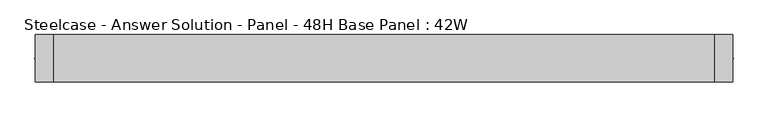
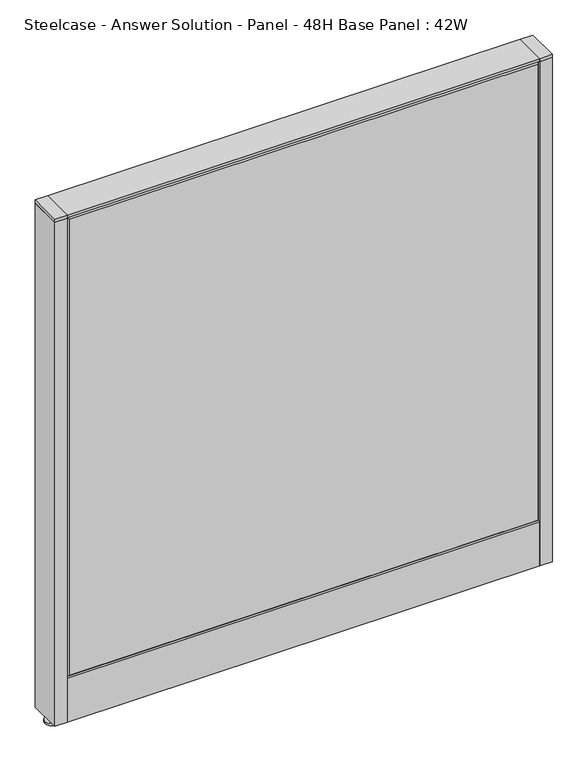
"""IFC4 building model written with IfcOpenShell, lengths in millimetres: furniture geometry, Steelcase - Answer Solution - Panel - 48H Base Panel : 42W."""

from ifc_helpers import new_model, si_unit, point, frame, frame_2d, origin, place, context, project, spatial, polyline, circle_curve, trimmed, segment, composite_curve, outline, extrude, faceted_brep, source, transform, mapped, element, save


def steelcase_answer_solution_panel_48h_base_panel_42w_ecbe02c0(model_context):
    return source(origin(), model_context, "Body", "SolidModel", [
        extrude(outline(composite_curve([segment(trimmed(circle_curve(frame_2d((547.624, 0.0320214)), 5.08), [point((552.704, 0.0320214))], [point((542.544, 0.0320214))], False, "CARTESIAN"), True, "CONTINUOUS"), segment(trimmed(circle_curve(frame_2d((547.624, 0.0320214)), 5.08), [point((542.544, 0.0320214))], [point((552.704, 0.0320214))], False, "CARTESIAN"), True, "CONTINUOUS")], self_intersect=False)), frame((0.0, 0.0, 5.0799671), z_axis=(0.0, 0.0, 1.0), x_axis=(1.0, 0.0, 0.0)), (0.0, 0.0, 1.0), 10.414),
        extrude(outline(composite_curve([segment(trimmed(circle_curve(frame_2d((547.624, 0.0320214)), 15.24), [point((562.864, 0.0320214))], [point((532.384, 0.0320214))], False, "CARTESIAN"), True, "CONTINUOUS"), segment(trimmed(circle_curve(frame_2d((547.624, 0.0320214)), 15.24), [point((532.384, 0.0320214))], [point((562.864, 0.0320214))], False, "CARTESIAN"), True, "CONTINUOUS")], self_intersect=False)), frame((0.0, 0.0, -3.29e-05), z_axis=(0.0, 0.0, 1.0), x_axis=(1.0, 0.0, 0.0)), (0.0, 0.0, 1.0), 5.08),
        extrude(outline(polyline([(561.975, 38.1320408), (561.975, -38.0679592), (533.4, -38.0679592), (533.4, 38.1320408), (561.975, 38.1320408)])), frame((0.0, 0.0, 1218.2348), z_axis=(0.0, 0.0, 1.0), x_axis=(1.0, 0.0, 0.0)), (0.0, 0.0, 1.0), 7.3151671),
        extrude(outline(polyline([(561.975, 38.1320408), (561.975, -38.0679592), (533.4, -38.0679592), (533.4, 38.1320408), (561.975, 38.1320408)])), frame((0.0, 0.0, 15.4939671), z_axis=(0.0, 0.0, 1.0), x_axis=(1.0, 0.0, 0.0)), (0.0, 0.0, 1.0), 1202.7408329),
        extrude(outline(composite_curve([segment(trimmed(circle_curve(frame_2d((-547.624, 0.0320214)), 5.08), [point((-552.704, 0.0320214))], [point((-542.544, 0.0320214))], False, "CARTESIAN"), True, "CONTINUOUS"), segment(trimmed(circle_curve(frame_2d((-547.624, 0.0320214)), 5.08), [point((-542.544, 0.0320214))], [point((-552.704, 0.0320214))], False, "CARTESIAN"), True, "CONTINUOUS")], self_intersect=False)), frame((0.0, 0.0, 5.0799671), z_axis=(0.0, 0.0, 1.0), x_axis=(1.0, 0.0, 0.0)), (0.0, 0.0, 1.0), 10.414),
        extrude(outline(composite_curve([segment(trimmed(circle_curve(frame_2d((-547.624, 0.0320214)), 15.24), [point((-562.864, 0.0320214))], [point((-532.384, 0.0320214))], False, "CARTESIAN"), True, "CONTINUOUS"), segment(trimmed(circle_curve(frame_2d((-547.624, 0.0320214)), 15.24), [point((-532.384, 0.0320214))], [point((-562.864, 0.0320214))], False, "CARTESIAN"), True, "CONTINUOUS")], self_intersect=False)), frame((0.0, 0.0, -3.29e-05), z_axis=(0.0, 0.0, 1.0), x_axis=(1.0, 0.0, 0.0)), (0.0, 0.0, 1.0), 5.08),
        extrude(outline(polyline([(-561.975, 38.1320408), (-533.4, 38.1320408), (-533.4, -38.0679592), (-561.975, -38.0679592), (-561.975, 38.1320408)])), frame((0.0, 0.0, 1218.2348), z_axis=(0.0, 0.0, 1.0), x_axis=(1.0, 0.0, 0.0)), (0.0, 0.0, 1.0), 7.3151671),
        extrude(outline(polyline([(-561.975, 38.1320408), (-533.4, 38.1320408), (-533.4, -38.0679592), (-561.975, -38.0679592), (-561.975, 38.1320408)])), frame((0.0, 0.0, 15.4939671), z_axis=(0.0, 0.0, 1.0), x_axis=(1.0, 0.0, 0.0)), (0.0, 0.0, 1.0), 1202.7408329),
        faceted_brep([(-528.574, 38.1635011, 1214.374), (528.574, 38.1635011, 1214.374), (528.574, 38.1635011, 125.476), (-528.574, 38.1635011, 125.476), (-533.4, 33.3375011, 1219.2), (-533.4, 33.3375011, 120.65), (533.4, 33.3375011, 120.65), (533.4, 33.3375011, 1219.2)], [[[0, 1, 2, 3]], [[4, 5, 6, 7]], [[4, 7, 1, 0]], [[7, 6, 2, 1]], [[6, 5, 3, 2]], [[5, 4, 0, 3]]]),
        faceted_brep([(528.574, -38.1635011, 1214.374), (-528.574, -38.1635011, 1214.374), (-528.574, -38.1635011, 125.476), (528.574, -38.1635011, 125.476), (533.4, -33.3375011, 1219.2), (533.4, -33.3375011, 120.65), (-533.4, -33.3375011, 120.65), (-533.4, -33.3375011, 1219.2)], [[[0, 1, 2, 3]], [[4, 5, 6, 7]], [[4, 7, 1, 0]], [[7, 6, 2, 1]], [[6, 5, 3, 2]], [[5, 4, 0, 3]]]),
        extrude(outline(polyline([(533.4, 38.1000194), (533.4, -38.1000194), (-533.4, -38.1000194), (-533.4, 38.1000194), (533.4, 38.1000194)])), frame((0.0, 0.0, 1219.2), z_axis=(0.0, 0.0, 1.0), x_axis=(1.0, 0.0, 0.0)), (0.0, 0.0, 1.0), 6.35),
        extrude(outline(polyline([(25.4000011, 119.8575157), (25.4000011, 120.65), (38.1000194, 120.65), (38.1000194, 15.494), (37.3075215, 15.494), (37.3075215, 119.8575157), (25.4000011, 119.8575157)])), frame((-533.4, 0.0, 0.0), z_axis=(1.0, 0.0, 0.0), x_axis=(0.0, 1.0, 0.0)), (0.0, 0.0, 1.0), 1066.8),
        extrude(outline(polyline([(-25.4000011, 119.8575157), (-37.3075215, 119.8575157), (-37.3075215, 15.494), (-38.1000194, 15.494), (-38.1000194, 120.65), (-25.4000011, 120.65), (-25.4000011, 119.8575157)])), frame((-533.4, 0.0, 0.0), z_axis=(1.0, 0.0, 0.0), x_axis=(0.0, 1.0, 0.0)), (0.0, 0.0, 1.0), 1066.8),
    ])


if __name__ == "__main__":
    model = new_model("IFC4")
    model_context = context("Model", 3, world=origin())
    ifc_project = project(units=[si_unit("LENGTHUNIT", "METRE", prefix="MILLI")], contexts=[model_context])
    site = spatial("IfcSite", under=ifc_project)
    building = spatial("IfcBuilding", under=site)
    placement = place(None, origin())
    steelcase_answer_solution_panel_48h_base_panel_42w_shape = steelcase_answer_solution_panel_48h_base_panel_42w_ecbe02c0(model_context)
    element("IfcFurniture", 1, ObjectType="Steelcase - Answer Solution - Panel - 48H Base Panel : 42W", at=placement, inside=building, context=model_context, shape_type="MappedRepresentation", body=[
        mapped(steelcase_answer_solution_panel_48h_base_panel_42w_shape, transform((0.0, 0.0, 0.0), x_axis=(1.0, 0.0, 0.0), y_axis=(0.0, 1.0, 0.0), z_axis=(0.0, 0.0, 1.0))),
    ])
    save(model, "model.ifc")
